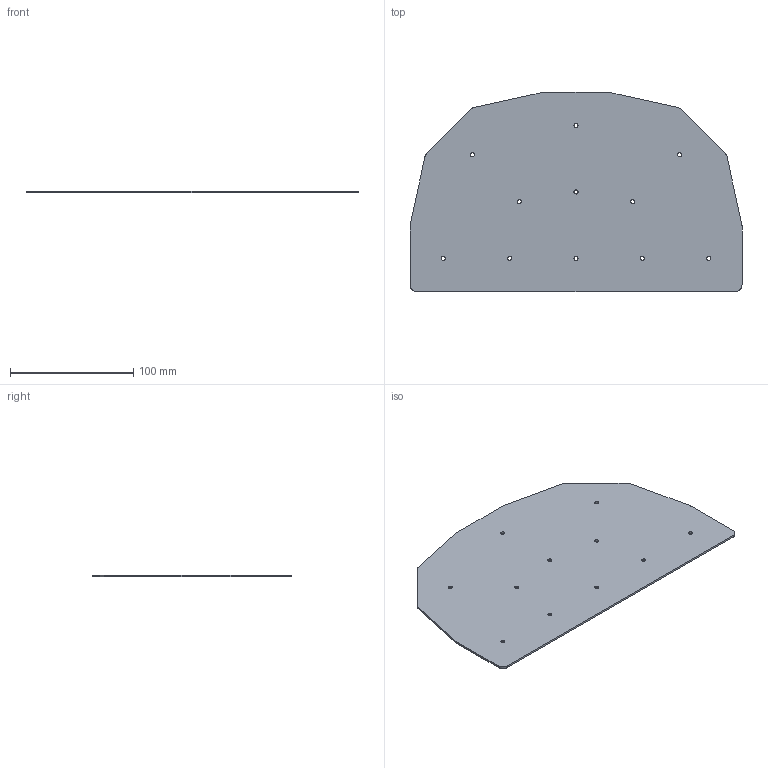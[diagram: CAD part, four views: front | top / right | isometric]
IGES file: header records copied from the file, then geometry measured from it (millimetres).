
Start section: SolidWorks IGES file using analytic representation for surfaces
Global section: file name: C:\Working\Gusset Convert\DRP-002-0002-02.igs; native system: SolidWorks 2010; preprocessor: SolidWorks 2010; author: mbush2; date: 100623.153948; units: inch
Bounding box: 269.88 x 161.93 x 1.59 mm (x, y, z)
Surface area: 78344.6 mm2 (no closed solid volume)
Topology: 0 solids, 0 shells, 44 faces, 596 edges, 596 vertices
Faces by surface type: revolution 32, bspline 12
